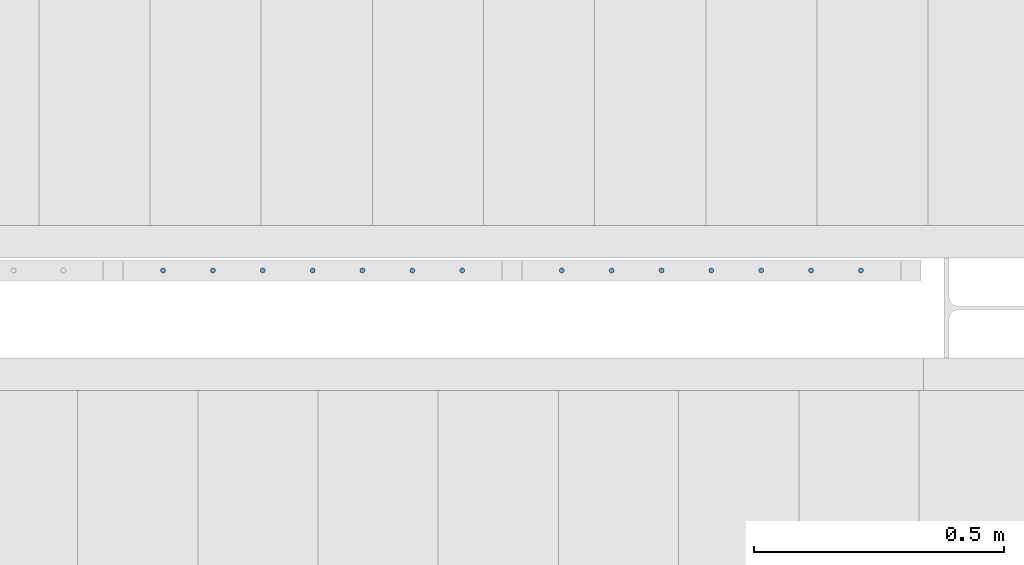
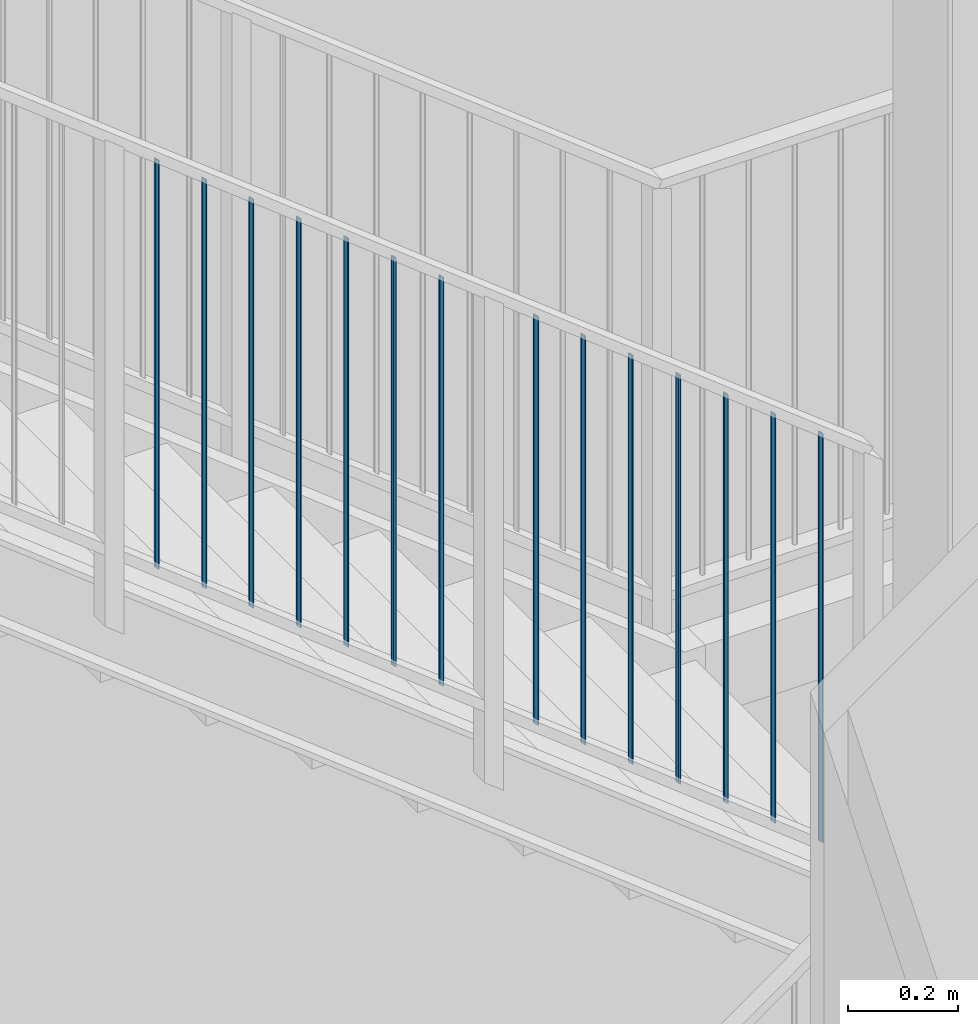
# One storey, part 26 of 135: 14 members, 1 element without a shape of its own.
"""IFC2X3 building model written with IfcOpenShell, lengths in millimetres."""

from ifc_helpers import new_model, entity, si_unit, converted_unit, derived_unit, money_unit, direction, frame, origin_with_axes, place, context, subcontext, project, spatial, faceted_brep, source, transform, mapped, material, type_object, type_shapes, element, aggregate, save


model = new_model("IFC2X3")

# Units and contexts
model_context = context("Model", 3, precision=0.01, world=origin_with_axes(), true_north=direction((0.0, 1.0)))
body_context = subcontext(model_context, "Body", "Model", "MODEL_VIEW")
ifc_project = project(units=[si_unit("LENGTHUNIT", "METRE", prefix="MILLI"), si_unit("AREAUNIT", "SQUARE_METRE"), si_unit("VOLUMEUNIT", "CUBIC_METRE"), converted_unit("PLANEANGLEUNIT", "DEGREE", entity("IfcPlaneAngleMeasure", 0.0174532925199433), si_unit("PLANEANGLEUNIT", "RADIAN"), dimensions=[0, 0, 0, 0, 0, 0, 0]), money_unit("EUR"), converted_unit("TIMEUNIT", "Year", entity("IfcTimeMeasure", 31557600.0), si_unit("TIMEUNIT", "SECOND"), dimensions=[0, 0, 1, 0, 0, 0, 0]), si_unit("MASSUNIT", "GRAM", prefix="KILO"), si_unit("THERMODYNAMICTEMPERATUREUNIT", "DEGREE_CELSIUS"), si_unit("LUMINOUSINTENSITYUNIT", "LUMEN"), si_unit("ENERGYUNIT", "JOULE", prefix="MEGA"), derived_unit("THERMALCONDUCTANCEUNIT", [(si_unit("POWERUNIT", "WATT"), 1), (si_unit("LENGTHUNIT", "METRE"), -1), (si_unit("THERMODYNAMICTEMPERATUREUNIT", "KELVIN"), -1)]), derived_unit("SPECIFICHEATCAPACITYUNIT", [(si_unit("ENERGYUNIT", "JOULE"), 1), (si_unit("MASSUNIT", "GRAM", prefix="KILO"), -1), (si_unit("THERMODYNAMICTEMPERATUREUNIT", "KELVIN"), -1)]), derived_unit("MASSDENSITYUNIT", [(si_unit("MASSUNIT", "GRAM", prefix="KILO"), 1), (si_unit("VOLUMEUNIT", "CUBIC_METRE"), -1)])], contexts=[model_context])

# Site, building, storey
site_placement = place(None, origin_with_axes())
site = spatial("IfcSite", under=ifc_project, at=site_placement, Name="Site", CompositionType="ELEMENT")
building_placement = place(site_placement, origin_with_axes())
building = spatial("IfcBuilding", under=site, at=building_placement, Name="Naam gebouw", CompositionType="ELEMENT")
storey_placement = place(building_placement, origin_with_axes())
storey = spatial("IfcBuildingStorey", under=building, at=storey_placement, Name="Begane grond N", CompositionType="ELEMENT", Elevation=0.0)

# Railing, members
railing_type = type_object("IfcRailingType", Name="Railing Type", PredefinedType="NOTDEFINED")
railing_placement = place(storey_placement, frame((56130.0, 22505.9124251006, 2285.20743093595), z_axis=(0.0, 0.0, 1.0), x_axis=(1.0, 0.0, 0.0)))
railing = element("IfcRailing", 1, at=railing_placement, inside=storey, type_object=railing_type, Name="_Reling-x", PredefinedType="NOTDEFINED")
ifc_material = material(Name="Metaal - Staal C")
member_type = type_object("IfcMemberType", Name="IfcMember", PredefinedType="MEMBER")
shared_shape = source(origin_with_axes(), body_context, "Body", "Brep", [
    faceted_brep([(0.0, -5.000000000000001, 3.926837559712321), (0.0, -5.000000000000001, 911.4268375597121), (-0.8682408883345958, -4.924038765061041, 911.3671800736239), (-0.8682408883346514, -4.924038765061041, 3.867180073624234), (0.8682408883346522, -4.924038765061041, 3.867180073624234), (0.8682408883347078, -4.924038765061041, 911.3671800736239), (1.710100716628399, -4.698463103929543, 911.1900202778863), (2.500000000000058, -4.330127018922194, 910.9007410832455), (3.213938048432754, -3.83022221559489, 910.5081320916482), (3.830222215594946, -3.213938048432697, 910.0241225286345), (4.330127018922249, -2.500000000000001, 909.4634187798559), (4.698463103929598, -1.710100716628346, 908.8430575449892), (4.924038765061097, -0.8682408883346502, 908.1818881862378), (5.000000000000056, 0.0, 907.4999999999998), (4.924038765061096, 0.8682408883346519, 906.8181118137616), (4.698463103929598, 1.710100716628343, 906.1569424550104), (4.330127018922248, 2.500000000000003, 905.5365812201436), (3.830222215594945, 3.213938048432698, 904.975877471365), (3.213938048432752, 3.830222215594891, 904.4918679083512), (2.500000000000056, 4.330127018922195, 904.099258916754), (1.710100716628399, 4.698463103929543, 903.8099797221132), (0.8682408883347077, 4.924038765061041, 903.6328199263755), (0.0, 5.000000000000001, 903.5731624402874), (-0.8682408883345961, 4.924038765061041, 903.6328199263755), (-1.710100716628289, 4.698463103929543, 903.8099797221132), (-2.499999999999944, 4.330127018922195, 904.099258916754), (-3.213938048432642, 3.83022221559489, 904.4918679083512), (-3.830222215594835, 3.213938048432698, 904.975877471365), (-4.330127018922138, 2.499999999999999, 905.5365812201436), (-4.698463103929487, 1.710100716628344, 906.1569424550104), (-4.924038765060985, 0.8682408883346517, 906.8181118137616), (-4.999999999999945, 0.0, 907.4999999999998), (-4.924038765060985, -0.8682408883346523, 908.1818881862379), (-4.698463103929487, -1.710100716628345, 908.8430575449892), (-4.330127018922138, -2.500000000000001, 909.4634187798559), (-3.830222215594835, -3.213938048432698, 910.0241225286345), (-3.21393804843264, -3.830222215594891, 910.5081320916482), (-2.499999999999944, -4.330127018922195, 910.9007410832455), (-1.710100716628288, -4.698463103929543, 911.1900202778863), (-1.710100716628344, -4.698463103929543, 3.690020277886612), (-2.5, -4.330127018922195, 3.400741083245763), (-3.213938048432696, -3.830222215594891, 3.008132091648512), (-3.83022221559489, -3.213938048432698, 2.524122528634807), (-4.330127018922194, -2.500000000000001, 1.963418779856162), (-4.698463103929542, -1.710100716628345, 1.343057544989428), (-4.92403876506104, -0.8682408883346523, 0.6818881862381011), (-5.0, 0.0, 0.0), (-4.92403876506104, 0.8682408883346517, -0.6818881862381), (-4.698463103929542, 1.710100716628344, -1.343057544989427), (-4.330127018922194, 2.499999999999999, -1.96341877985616), (-3.83022221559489, 3.213938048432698, -2.524122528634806), (-3.213938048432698, 3.83022221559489, -3.008132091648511), (-2.5, 4.330127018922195, -3.400741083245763), (-1.710100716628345, 4.698463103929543, -3.690020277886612), (-0.8682408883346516, 4.924038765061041, -3.867180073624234), (0.0, 5.000000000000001, -3.926837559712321), (0.8682408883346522, 4.924038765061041, -3.867180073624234), (1.710100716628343, 4.698463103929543, -3.690020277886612), (2.5, 4.330127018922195, -3.400741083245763), (3.213938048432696, 3.830222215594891, -3.008132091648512), (3.83022221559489, 3.213938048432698, -2.524122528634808), (4.330127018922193, 2.500000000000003, -1.963418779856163), (4.698463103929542, 1.710100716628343, -1.343057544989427), (4.92403876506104, 0.8682408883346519, -0.6818881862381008), (5.0, 0.0, 0.0), (4.924038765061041, -0.8682408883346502, 0.6818881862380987), (4.698463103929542, -1.710100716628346, 1.343057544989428), (4.330127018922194, -2.500000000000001, 1.963418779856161), (3.830222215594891, -3.213938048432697, 2.524122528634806), (3.213938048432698, -3.83022221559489, 3.008132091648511), (2.500000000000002, -4.330127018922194, 3.400741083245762), (1.710100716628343, -4.698463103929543, 3.690020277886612)], [[[0, 1, 2, 3]], [[4, 5, 1, 0]], [[1, 5, 6, 7, 8, 9, 10, 11, 12, 13, 14, 15, 16, 17, 18, 19, 20, 21, 22, 23, 24, 25, 26, 27, 28, 29, 30, 31, 32, 33, 34, 35, 36, 37, 38, 2]], [[3, 2, 38, 39]], [[0, 3, 39, 40, 41, 42, 43, 44, 45, 46, 47, 48, 49, 50, 51, 52, 53, 54, 55, 56, 57, 58, 59, 60, 61, 62, 63, 64, 65, 66, 67, 68, 69, 70, 71, 4]], [[71, 6, 5, 4]], [[70, 7, 6, 71]], [[69, 8, 7, 70]], [[68, 9, 8, 69]], [[67, 10, 9, 68]], [[66, 11, 10, 67]], [[65, 12, 11, 66]], [[64, 13, 12, 65]], [[63, 14, 13, 64]], [[62, 15, 14, 63]], [[61, 16, 15, 62]], [[60, 17, 16, 61]], [[59, 18, 17, 60]], [[58, 19, 18, 59]], [[57, 20, 19, 58]], [[56, 21, 20, 57]], [[55, 22, 21, 56]], [[54, 23, 22, 55]], [[53, 24, 23, 54]], [[52, 25, 24, 53]], [[51, 26, 25, 52]], [[50, 27, 26, 51]], [[49, 28, 27, 50]], [[48, 29, 28, 49]], [[47, 30, 29, 48]], [[46, 31, 30, 47]], [[45, 32, 31, 46]], [[44, 33, 32, 45]], [[43, 34, 33, 44]], [[42, 35, 34, 43]], [[41, 36, 35, 42]], [[40, 37, 36, 41]], [[39, 38, 37, 40]]]),
])
type_shapes(member_type, [shared_shape])
member_1_placement = place(railing_placement, frame((1130.655055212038, -24.99999999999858, 1242.363970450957), z_axis=(0.0, 0.0, 1.0), x_axis=(1.0, 0.0, 0.0)))
member_1 = element("IfcMember", 2, at=member_1_placement, type_object=member_type, material=ifc_material, Name="_Spijlen-x", ObjectType="MEMBER", context=body_context, shape_type="MappedRepresentation", body=[
    mapped(shared_shape, transform((0.0, 0.0, 0.0), x_axis=(0.0, -1.0, 0.0), y_axis=(1.0, 0.0, 0.0), z_axis=(0.0, 0.0, 1.0))),
])
member_2_placement = place(railing_placement, frame((1230.172283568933, -24.99999999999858, 1164.206372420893), z_axis=(0.0, 0.0, 1.0), x_axis=(1.0, 0.0, 0.0)))
member_2 = element("IfcMember", 3, at=member_2_placement, type_object=member_type, material=ifc_material, Name="_Spijlen-x", ObjectType="MEMBER", context=body_context, shape_type="MappedRepresentation", body=[
    mapped(shared_shape, transform((0.0, 0.0, 0.0), x_axis=(0.0, -1.0, 0.0), y_axis=(1.0, 0.0, 0.0), z_axis=(0.0, 0.0, 1.0))),
])
member_3_placement = place(railing_placement, frame((1329.689511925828, -24.99999999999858, 1086.048774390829), z_axis=(0.0, 0.0, 1.0), x_axis=(1.0, 0.0, 0.0)))
member_3 = element("IfcMember", 4, at=member_3_placement, type_object=member_type, material=ifc_material, Name="_Spijlen-x", ObjectType="MEMBER", context=body_context, shape_type="MappedRepresentation", body=[
    mapped(shared_shape, transform((0.0, 0.0, 0.0), x_axis=(0.0, -1.0, 0.0), y_axis=(1.0, 0.0, 0.0), z_axis=(0.0, 0.0, 1.0))),
])
member_4_placement = place(railing_placement, frame((1429.206740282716, -24.99999999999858, 1007.891176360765), z_axis=(0.0, 0.0, 1.0), x_axis=(1.0, 0.0, 0.0)))
member_4 = element("IfcMember", 5, at=member_4_placement, type_object=member_type, material=ifc_material, Name="_Spijlen-x", ObjectType="MEMBER", context=body_context, shape_type="MappedRepresentation", body=[
    mapped(shared_shape, transform((0.0, 0.0, 0.0), x_axis=(0.0, -1.0, 0.0), y_axis=(1.0, 0.0, 0.0), z_axis=(0.0, 0.0, 1.0))),
])
member_5_placement = place(railing_placement, frame((1528.723968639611, -24.99999999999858, 929.7335783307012), z_axis=(0.0, 0.0, 1.0), x_axis=(1.0, 0.0, 0.0)))
member_5 = element("IfcMember", 6, at=member_5_placement, type_object=member_type, material=ifc_material, Name="_Spijlen-x", ObjectType="MEMBER", context=body_context, shape_type="MappedRepresentation", body=[
    mapped(shared_shape, transform((0.0, 0.0, 0.0), x_axis=(0.0, -1.0, 0.0), y_axis=(1.0, 0.0, 0.0), z_axis=(0.0, 0.0, 1.0))),
])
member_6_placement = place(railing_placement, frame((1727.7584253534, -24.99999999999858, 773.4183822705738), z_axis=(0.0, 0.0, 1.0), x_axis=(1.0, 0.0, 0.0)))
member_6 = element("IfcMember", 7, at=member_6_placement, type_object=member_type, material=ifc_material, Name="_Spijlen-x", ObjectType="MEMBER", context=body_context, shape_type="MappedRepresentation", body=[
    mapped(shared_shape, transform((0.0, 0.0, 0.0), x_axis=(0.0, -1.0, 0.0), y_axis=(1.0, 0.0, 0.0), z_axis=(0.0, 0.0, 1.0))),
])
member_7_placement = place(railing_placement, frame((1628.241196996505, -24.99999999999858, 851.5759803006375), z_axis=(0.0, 0.0, 1.0), x_axis=(1.0, 0.0, 0.0)))
member_7 = element("IfcMember", 8, at=member_7_placement, type_object=member_type, material=ifc_material, Name="_Spijlen-x", ObjectType="MEMBER", context=body_context, shape_type="MappedRepresentation", body=[
    mapped(shared_shape, transform((0.0, 0.0, 0.0), x_axis=(0.0, -1.0, 0.0), y_axis=(1.0, 0.0, 0.0), z_axis=(0.0, 0.0, 1.0))),
])
member_8_placement = place(railing_placement, frame((1926.79288206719, -24.99999999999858, 617.1031862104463), z_axis=(0.0, 0.0, 1.0), x_axis=(1.0, 0.0, 0.0)))
member_8 = element("IfcMember", 9, at=member_8_placement, type_object=member_type, material=ifc_material, Name="_Spijlen-x", ObjectType="MEMBER", context=body_context, shape_type="MappedRepresentation", body=[
    mapped(shared_shape, transform((0.0, 0.0, 0.0), x_axis=(0.0, -1.0, 0.0), y_axis=(1.0, 0.0, 0.0), z_axis=(0.0, 0.0, 1.0))),
])
member_9_placement = place(railing_placement, frame((2026.310110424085, -24.99999999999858, 538.9455881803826), z_axis=(0.0, 0.0, 1.0), x_axis=(1.0, 0.0, 0.0)))
member_9 = element("IfcMember", 10, at=member_9_placement, type_object=member_type, material=ifc_material, Name="_Spijlen-x", ObjectType="MEMBER", context=body_context, shape_type="MappedRepresentation", body=[
    mapped(shared_shape, transform((0.0, 0.0, 0.0), x_axis=(0.0, -1.0, 0.0), y_axis=(1.0, 0.0, 0.0), z_axis=(0.0, 0.0, 1.0))),
])
member_10_placement = place(railing_placement, frame((2125.82733878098, -24.99999999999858, 460.7879901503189), z_axis=(0.0, 0.0, 1.0), x_axis=(1.0, 0.0, 0.0)))
member_10 = element("IfcMember", 11, at=member_10_placement, type_object=member_type, material=ifc_material, Name="_Spijlen-x", ObjectType="MEMBER", context=body_context, shape_type="MappedRepresentation", body=[
    mapped(shared_shape, transform((0.0, 0.0, 0.0), x_axis=(0.0, -1.0, 0.0), y_axis=(1.0, 0.0, 0.0), z_axis=(0.0, 0.0, 1.0))),
])
member_11_placement = place(railing_placement, frame((2225.344567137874, -24.99999999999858, 382.6303921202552), z_axis=(0.0, 0.0, 1.0), x_axis=(1.0, 0.0, 0.0)))
member_11 = element("IfcMember", 12, at=member_11_placement, type_object=member_type, material=ifc_material, Name="_Spijlen-x", ObjectType="MEMBER", context=body_context, shape_type="MappedRepresentation", body=[
    mapped(shared_shape, transform((0.0, 0.0, 0.0), x_axis=(0.0, -1.0, 0.0), y_axis=(1.0, 0.0, 0.0), z_axis=(0.0, 0.0, 1.0))),
])
member_12_placement = place(railing_placement, frame((2324.861795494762, -24.99999999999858, 304.4727940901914), z_axis=(0.0, 0.0, 1.0), x_axis=(1.0, 0.0, 0.0)))
member_12 = element("IfcMember", 13, at=member_12_placement, type_object=member_type, material=ifc_material, Name="_Spijlen-x", ObjectType="MEMBER", context=body_context, shape_type="MappedRepresentation", body=[
    mapped(shared_shape, transform((0.0, 0.0, 0.0), x_axis=(0.0, -1.0, 0.0), y_axis=(1.0, 0.0, 0.0), z_axis=(0.0, 0.0, 1.0))),
])
member_13_placement = place(railing_placement, frame((2424.379023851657, -24.99999999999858, 226.3151960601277), z_axis=(0.0, 0.0, 1.0), x_axis=(1.0, 0.0, 0.0)))
member_13 = element("IfcMember", 14, at=member_13_placement, type_object=member_type, material=ifc_material, Name="_Spijlen-x", ObjectType="MEMBER", context=body_context, shape_type="MappedRepresentation", body=[
    mapped(shared_shape, transform((0.0, 0.0, 0.0), x_axis=(0.0, -1.0, 0.0), y_axis=(1.0, 0.0, 0.0), z_axis=(0.0, 0.0, 1.0))),
])
member_14_placement = place(railing_placement, frame((2523.896252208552, -24.99999999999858, 148.1575980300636), z_axis=(0.0, 0.0, 1.0), x_axis=(1.0, 0.0, 0.0)))
member_14 = element("IfcMember", 15, at=member_14_placement, type_object=member_type, material=ifc_material, Name="_Spijlen-x", ObjectType="MEMBER", context=body_context, shape_type="MappedRepresentation", body=[
    mapped(shared_shape, transform((0.0, 0.0, 0.0), x_axis=(0.0, -1.0, 0.0), y_axis=(1.0, 0.0, 0.0), z_axis=(0.0, 0.0, 1.0))),
])
aggregate(railing, [member_1, member_2, member_3, member_4, member_5, member_6, member_7, member_8, member_9, member_10, member_11, member_12, member_13, member_14])

save(model, "model.ifc")
